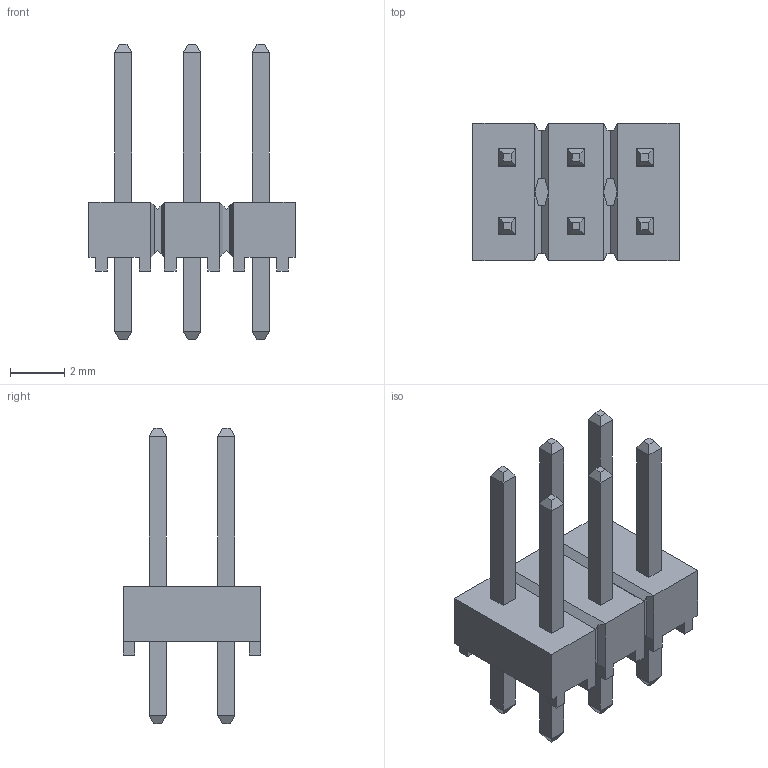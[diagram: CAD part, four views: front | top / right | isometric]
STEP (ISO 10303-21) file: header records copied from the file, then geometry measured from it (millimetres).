
FILE_DESCRIPTION(('FreeCAD Model'),'2;1');
FILE_NAME('C:/Users/cr185092/Documents/KiCAD_Projects/VORON_V2.0_Expander_option2/VORON_V2.0.pretty/3D_Models\PIN_HEADER_TOP_2X3.step', '2017-11-19T12:48:36',('kicad StepUp'),('ksu MCAD'), 'Open CASCADE STEP processor 6.8','FreeCAD','Unknown');
FILE_SCHEMA(('AUTOMOTIVE_DESIGN_CC2 { 1 2 10303 214 -1 1 5 4 }'));
Length unit declared in the file: millimetre
Products named in the file (1): PIN_HEADER_TOP_2X3
Bounding box: 7.62 x 5.08 x 10.92 mm (x, y, z)
Volume: 97.4 mm3; surface area: 282.9 mm2
Topology: 1 solids, 1 shells, 226 faces, 548 edges, 336 vertices
Faces by surface type: plane 226
Entity records: 7943 total; most frequent: CARTESIAN_POINT 1111, ORIENTED_EDGE 1096, DIRECTION 1002, EDGE_CURVE 548, LINE 548, VECTOR 548, VERTEX_POINT 336, FACE_BOUND 238
